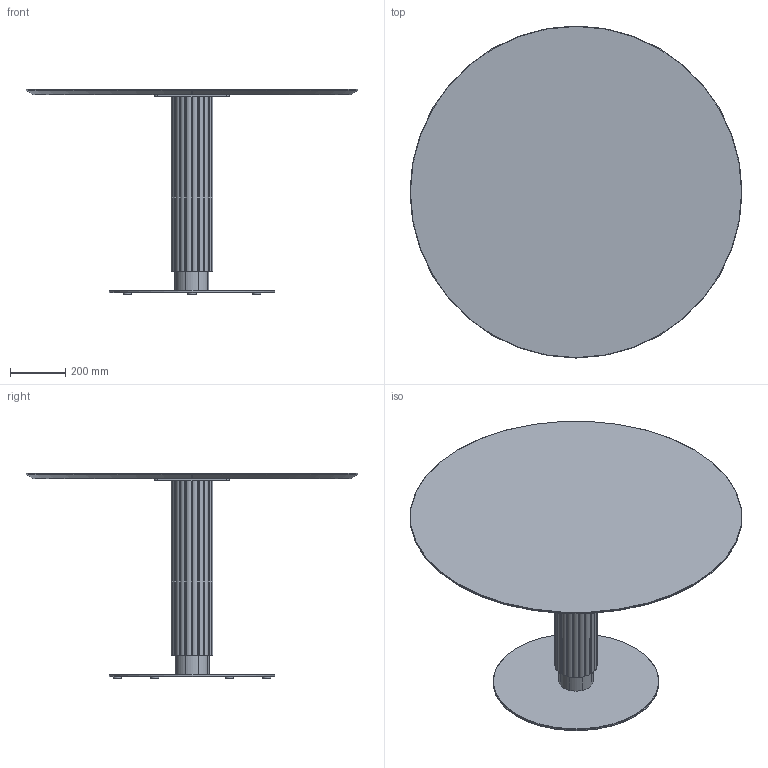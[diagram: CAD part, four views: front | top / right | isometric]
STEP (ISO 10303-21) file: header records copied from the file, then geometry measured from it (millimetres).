
FILE_DESCRIPTION( ('This file contains a STEP AP42 implementation' ,'as created by ZW3D STEP Interface translator.') ,'2;1' );
FILE_NAME( 'God - B_Rond - F1 - M5 - 1200 x 1200 x 750.stp' ,'24 912.114232', (''), ('ZWCAD Software Co.'), 'Version 1.0', 'ZW3D to STEP translator', '' );
FILE_SCHEMA(('AUTOMOTIVE_DESIGN { 1 0 10303 214 1 1 1 1 }'));
Length unit declared in the file: millimetre
Products named in the file (15): 0; PIED BISTROT PARAMETRIQUE_; CROIX ACIER 370 V.02_; CRX-X370-02_; SOCLE ACIER C Ø600 V.02_; SCL-D600-02_; PLA-R30A-01_; PLA-R30A-01; COLONNE ACIER Ø48.5 V.02_; TUB-D048-02_; PLA-R48A-01_; Colonne GODRON H700_; WUERTH 0276063020 Euro-screw 6.3x2 Verzinkt_; PLATEAU BISTROT PARAMETRIQUE_; insert_m6_13_
Assembly tree (25 placements, depth 3):
  0
  PIED BISTROT PARAMETRIQUE_
    CROIX ACIER 370 V.02_
      CRX-X370-02_
    SOCLE ACIER C Ø600 V.02_
      SCL-D600-02_
      PLA-R30A-01_
      PLA-R30A-01  x5
    COLONNE ACIER Ø48.5 V.02_
      TUB-D048-02_
      PLA-R48A-01_  x2
    Colonne GODRON H700_
    WUERTH 0276063020 Euro-screw 6.3x2 Verzinkt_
    PLATEAU BISTROT PARAMETRIQUE_
      insert_m6_13_  x8
Bounding box: 1200 x 1200 x 744 mm (x, y, z)
Volume: 35230140.7 mm3; surface area: 4293275.9 mm2
Topology: 29 solids, 29 shells, 656 faces, 1625 edges, 1042 vertices
Faces by surface type: plane 294, cylinder 193, bspline 125, cone 43, torus 1
Full cylindrical faces by diameter (mm): 4.88 x1, 6 x8, 6.3 x1, 8 x47, 12 x2, 14 x2, 30 x6, 44.5 x3, 48.5 x1, 600 x1
Entity records: 16242 total; most frequent: CARTESIAN_POINT 4063, DIRECTION 2241, ORIENTED_EDGE 2240, EDGE_CURVE 1120, AXIS2_PLACEMENT_3D 796, VERTEX_POINT 728, VECTOR 649, LINE 649
